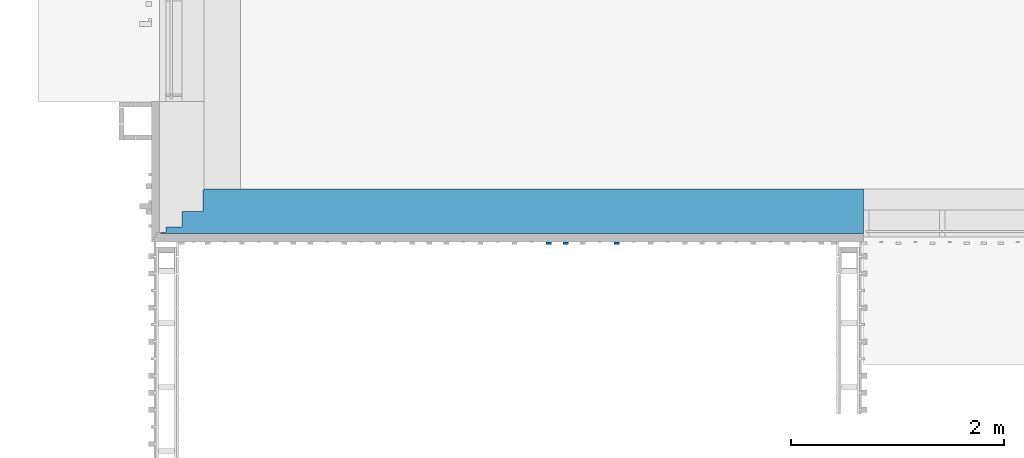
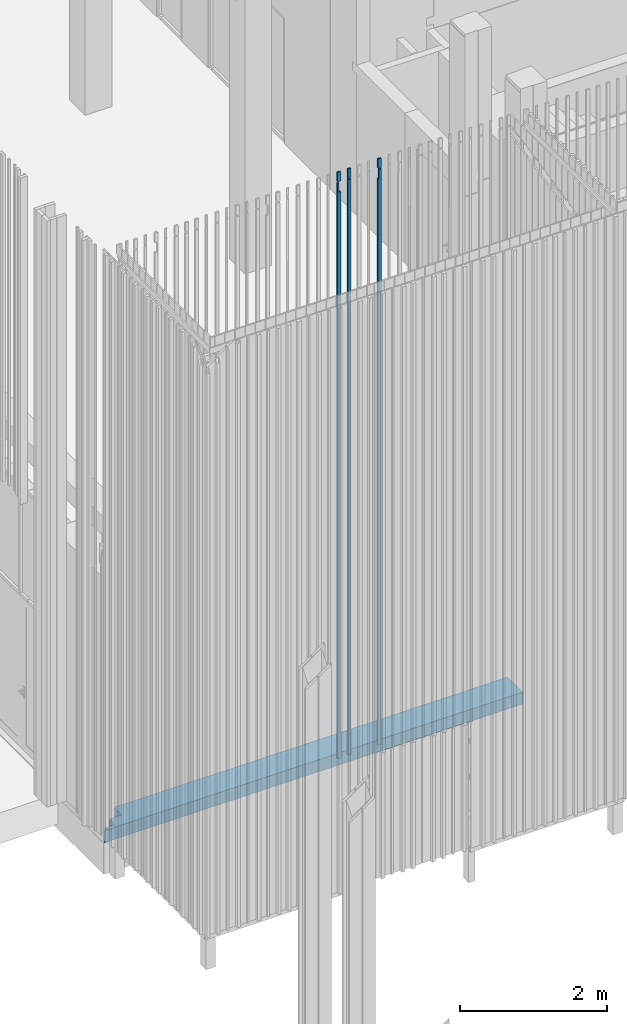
# One storey, part 98 of 390: 4 walls.
"""IFC2X3 building model written with IfcOpenShell, lengths in millimetres."""

from ifc_helpers import new_model, entity, si_unit, converted_unit, derived_unit, money_unit, direction, frame, origin_with_axes, place, context, subcontext, project, spatial, faceted_brep, material, material_list, type_object, element, save


model = new_model("IFC2X3")

# Units and contexts
model_context = context("Model", 3, precision=1e-05, world=origin_with_axes(), true_north=direction((0.0, 1.0)))
body_context = subcontext(model_context, "Body", "Model", "MODEL_VIEW")
ifc_project = project(units=[si_unit("LENGTHUNIT", "METRE", prefix="MILLI"), si_unit("AREAUNIT", "SQUARE_METRE"), si_unit("VOLUMEUNIT", "CUBIC_METRE"), converted_unit("PLANEANGLEUNIT", "DEGREE", entity("IfcPlaneAngleMeasure", 0.0174532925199), si_unit("PLANEANGLEUNIT", "RADIAN"), dimensions=[0, 0, 0, 0, 0, 0, 0]), si_unit("SOLIDANGLEUNIT", "STERADIAN"), money_unit("EUR"), converted_unit("TIMEUNIT", "Year", entity("IfcTimeMeasure", 31556926.0), si_unit("TIMEUNIT", "SECOND"), dimensions=[0, 0, 1, 0, 0, 0, 0]), si_unit("MASSUNIT", "GRAM", prefix="KILO"), si_unit("THERMODYNAMICTEMPERATUREUNIT", "DEGREE_CELSIUS"), si_unit("LUMINOUSINTENSITYUNIT", "LUMEN"), si_unit("ENERGYUNIT", "JOULE", prefix="MEGA"), derived_unit("THERMALCONDUCTANCEUNIT", [(si_unit("POWERUNIT", "WATT"), 1), (si_unit("LENGTHUNIT", "METRE"), -1), (si_unit("THERMODYNAMICTEMPERATUREUNIT", "KELVIN"), -1)]), derived_unit("SPECIFICHEATCAPACITYUNIT", [(si_unit("ENERGYUNIT", "JOULE"), 1), (si_unit("MASSUNIT", "GRAM", prefix="KILO"), -1), (si_unit("THERMODYNAMICTEMPERATUREUNIT", "KELVIN"), -1)]), derived_unit("MASSDENSITYUNIT", [(si_unit("MASSUNIT", "GRAM", prefix="KILO"), 1), (si_unit("VOLUMEUNIT", "CUBIC_METRE"), -1)])], contexts=[model_context])

# Site, building, storey
site_placement = place(None, origin_with_axes())
site = spatial("IfcSite", under=ifc_project, at=site_placement, Name="Site", CompositionType="ELEMENT")
building_placement = place(site_placement, origin_with_axes())
building = spatial("IfcBuilding", under=site, at=building_placement, Name="Building", CompositionType="ELEMENT")
storey_placement = place(building_placement, origin_with_axes())
storey = spatial("IfcBuildingStorey", under=building, at=storey_placement, Name="1 korrus", CompositionType="ELEMENT", Elevation=0.0)

# Walls
ifc_material_1 = material(Name="Site specified")
ifc_material_list_1 = material_list([ifc_material_1, ifc_material_1])
wall_type_1 = type_object("IfcWallType", Name="Puitfassaadi ribistik", PredefinedType="NOTDEFINED")
wall_1_placement = place(storey_placement, frame((126783.999994, 45261.0000084, 100.000000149), z_axis=(0.0, 0.0, 1.0), x_axis=(-1.0, 0.0, 0.0)))
element("IfcWall", 1, at=wall_1_placement, inside=storey, type_object=wall_type_1, material=ifc_material_list_1, Name="Site specified", context=body_context, shape_type="Brep", body=[
    faceted_brep([(25.0, -1.99990368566, -3.12924797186e-06), (25.0, -2.0, 9438.5673503), (14.0000334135, -2.00000000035, 9438.5673503), (14.0000334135, -1.99975716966, 9591.91840404), (-25.0, -2.00000000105, 9591.91726162), (-25.0, -1.99990368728, -3.12924797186e-06), (25.0, 25.0, 0.0), (25.0, 25.0, 9432.82830918), (14.0000334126, 25.0, 9432.82830918), (14.0000334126, 25.0002399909, 9586.17936352), (-25.0, 25.0, 9586.17823446), (-25.0, 25.0, 0.0)], [[[0, 1, 2, 3, 4, 5]], [[6, 7, 1, 0]], [[8, 2, 1, 7]], [[8, 9, 3, 2]], [[4, 3, 9, 10]], [[11, 5, 4, 10]], [[6, 0, 5, 11]], [[9, 8, 7, 6, 11, 10]]]),
    faceted_brep([(-25.0, 25.0, 9764.99999985), (-25.0, 25.0, 9607.64738695), (-25.0, -2.00000000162, 9613.38641411), (-25.0, -2.00000000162, 9764.99999985), (25.0, 25.0, 9764.99999985), (25.0, 25.0, 9607.64738695), (25.0, -2.0, 9613.38641411), (25.0, -2.0, 9764.99999985)], [[[0, 1, 2, 3]], [[4, 5, 1, 0]], [[5, 6, 2, 1]], [[3, 2, 6, 7]], [[3, 7, 4, 0]], [[7, 6, 5, 4]]]),
])
wall_2_placement = place(storey_placement, frame((126305.999994, 45260.9999285, 100.000000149), z_axis=(0.0, 0.0, 1.0), x_axis=(-1.0, 0.0, 0.0)))
element("IfcWall", 2, at=wall_2_placement, inside=storey, type_object=wall_type_1, material=ifc_material_list_1, Name="Site specified", context=body_context, shape_type="Brep", body=[
    faceted_brep([(25.0, -1.99998361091, -3.12924797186e-06), (25.0, -2.00007992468, 9591.91726162), (-25.0, -2.0000799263, 9591.91726162), (-25.0, -1.99998361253, -3.12924797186e-06), (25.0, 25.0, 0.0), (25.0, 25.0, 9586.17821747), (-25.0, 25.0, 9586.17821747), (-25.0, 25.0, 0.0)], [[[0, 1, 2, 3]], [[4, 5, 1, 0]], [[5, 6, 2, 1]], [[3, 2, 6, 7]], [[0, 3, 7, 4]], [[7, 6, 5, 4]]]),
    faceted_brep([(-25.0, 25.0, 9764.99999985), (-25.0, 25.0, 9607.64736996), (-25.0, -2.00007992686, 9613.38641411), (-25.0, -2.00007992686, 9764.99999985), (25.0, 25.0, 9764.99999985), (25.0, 25.0, 9607.64736996), (25.0, -2.00007992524, 9613.38641411), (25.0, -2.00007992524, 9764.99999985)], [[[0, 1, 2, 3]], [[4, 5, 1, 0]], [[5, 6, 2, 1]], [[3, 2, 6, 7]], [[3, 7, 4, 0]], [[7, 6, 5, 4]]]),
])
wall_3_placement = place(storey_placement, frame((126143.999994, 45260.9999285, 100.000000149), z_axis=(0.0, 0.0, 1.0), x_axis=(-1.0, 0.0, 0.0)))
element("IfcWall", 3, at=wall_3_placement, inside=storey, type_object=wall_type_1, material=ifc_material_list_1, Name="Site specified", context=body_context, shape_type="Brep", body=[
    faceted_brep([(-25.0, 25.0, 9764.99999985), (-25.0, 25.0, 9607.64736996), (-25.0, -2.00007992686, 9613.38641411), (-25.0, -2.00007992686, 9764.99999985), (25.0, 25.0, 9764.99999985), (25.0, 25.0, 9607.64736996), (25.0, -2.00007992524, 9613.38641411), (25.0, -2.00007992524, 9764.99999985)], [[[0, 1, 2, 3]], [[4, 5, 1, 0]], [[5, 6, 2, 1]], [[3, 2, 6, 7]], [[3, 7, 4, 0]], [[7, 6, 5, 4]]]),
    faceted_brep([(25.0, -2.00007992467, 9591.91726162), (4.00003341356, -1.99983709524, 9591.91840404), (4.00003341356, -2.00007992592, 9438.5673503), (-25.0, -2.00007992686, 9438.5673503), (-25.0, -1.99998361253, -3.12924797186e-06), (25.0, -1.99998361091, -3.12924797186e-06), (25.0, 25.0, 9586.17821747), (4.00003341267, 25.0002399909, 9586.17934653), (4.00003341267, 25.0, 9432.82829219), (-25.0, 25.0, 9432.82829219), (-25.0, 25.0, 0.0), (25.0, 25.0, 0.0)], [[[0, 1, 2, 3, 4, 5]], [[6, 7, 1, 0]], [[8, 2, 1, 7]], [[8, 9, 3, 2]], [[4, 3, 9, 10]], [[11, 5, 4, 10]], [[5, 11, 6, 0]], [[9, 8, 7, 6, 11, 10]]]),
])
ifc_material_2 = material(Name="Krohv - Lubjakivi")
ifc_material_3 = material(Name="Raudbetoon - Konstruktsioon")
ifc_material_4 = material(Name="Soojustus - Plastik Kõva")
ifc_material_5 = material(Name="Plaat - Sein")
ifc_material_list_2 = material_list([ifc_material_2, ifc_material_3, ifc_material_4, ifc_material_4, ifc_material_5])
wall_type_2 = type_object("IfcWallType", Name="VS-05", PredefinedType="NOTDEFINED")
wall_4_placement = place(storey_placement, frame((122909.999995, 45760.0000092, -100.0), z_axis=(0.0, 0.0, 1.0), x_axis=(1.0, 0.0, 0.0)))
element("IfcWall", 4, at=wall_4_placement, inside=storey, type_object=wall_type_2, material=ifc_material_list_2, Name="VS-05", context=body_context, shape_type="Brep", body=[
    faceted_brep([(6190.00000176, -10.0000005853, 200.0), (6190.00000176, -5.85274051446e-07, 200.0), (0.0, 0.0, 200.0), (-1.02318153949e-09, -10.0, 200.0), (6190.00000176, -10.0000005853, 0.0), (6190.00000176, -5.85274051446e-07, 0.0), (0.0, 0.0, 0.0), (-1.02318153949e-09, -10.0, 0.0)], [[[0, 1, 2, 3]], [[0, 4, 5, 1]], [[1, 5, 6, 2]], [[3, 2, 6, 7]], [[4, 0, 3, 7]], [[5, 4, 7, 6]]]),
    faceted_brep([(6190.00000176, -210.000000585, 200.0), (6190.00000178, -10.0000005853, 200.0), (-10.000000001, -9.99999999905, 200.0), (-10.0000000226, -209.999999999, 200.0), (6190.00000176, -210.000000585, 0.0), (6190.00000178, -10.0000005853, 0.0), (-10.000000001, -9.99999999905, 0.0), (-10.0000000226, -209.999999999, 0.0)], [[[0, 1, 2, 3]], [[0, 4, 5, 1]], [[1, 5, 6, 2]], [[3, 2, 6, 7]], [[4, 0, 3, 7]], [[5, 4, 7, 6]]]),
    faceted_brep([(6190.00000176, -360.000000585, 200.0), (6190.00000178, -210.000000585, 200.0), (-210.000000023, -209.99999998, 200.0), (-210.000000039, -359.99999998, 200.0), (6190.00000176, -360.000000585, 0.0), (6190.00000178, -210.000000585, 0.0), (-210.000000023, -209.99999998, 0.0), (-210.000000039, -359.99999998, 0.0)], [[[0, 1, 2, 3]], [[0, 4, 5, 1]], [[1, 5, 6, 2]], [[3, 2, 6, 7]], [[4, 0, 3, 7]], [[5, 4, 7, 6]]]),
    faceted_brep([(6190.00000176, -410.000000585, 200.0), (6190.00000177, -360.000000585, 200.0), (-360.000000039, -359.999999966, 200.0), (-360.000000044, -409.999999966, 200.0), (6190.00000176, -410.000000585, 0.0), (6190.00000177, -360.000000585, 0.0), (-360.000000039, -359.999999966, 0.0), (-360.000000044, -409.999999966, 0.0)], [[[0, 1, 2, 3]], [[0, 4, 5, 1]], [[1, 5, 6, 2]], [[3, 2, 6, 7]], [[4, 0, 3, 7]], [[5, 4, 7, 6]]]),
    faceted_brep([(6190.00000176, -418.000000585, 200.0), (6190.00000176, -410.000000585, 200.0), (-410.000000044, -409.999999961, 200.0), (-410.000000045, -417.999999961, 200.0), (6190.00000176, -418.000000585, 0.0), (6190.00000176, -410.000000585, 0.0), (-410.000000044, -409.999999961, 0.0), (-410.000000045, -417.999999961, 0.0)], [[[0, 1, 2, 3]], [[0, 4, 5, 1]], [[1, 5, 6, 2]], [[3, 2, 6, 7]], [[4, 0, 3, 7]], [[5, 4, 7, 6]]]),
])

save(model, "model.ifc")
